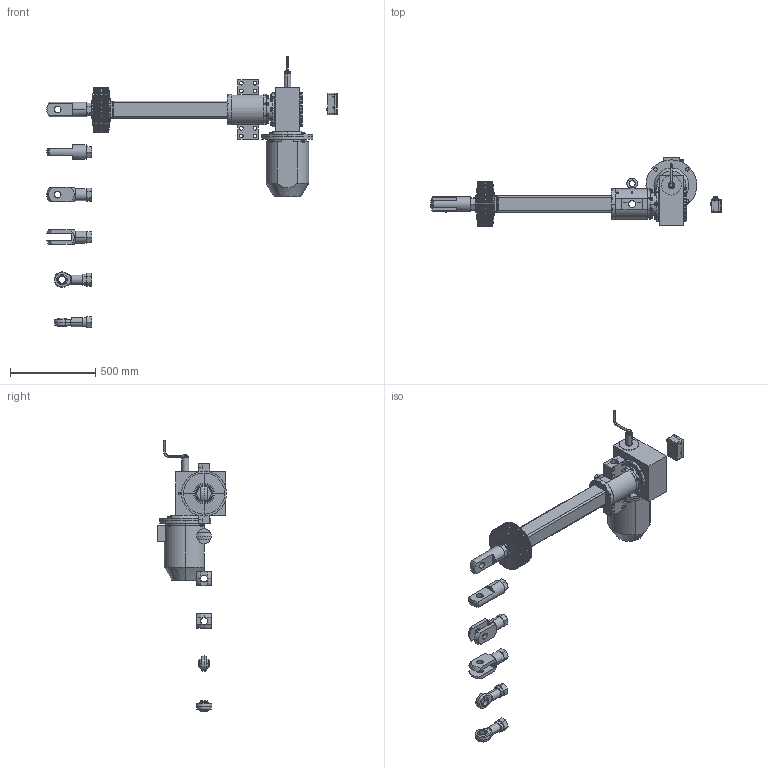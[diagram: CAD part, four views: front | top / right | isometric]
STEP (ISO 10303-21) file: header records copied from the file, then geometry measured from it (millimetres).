
FILE_DESCRIPTION (( 'STEP AP203' ), '1' );
FILE_NAME ('Ì4 6 500.STEP', '2016-12-22T08:28:47', ( '' ), ( '' ), 'SwSTEP 2.0', 'SolidWorks 2012', '' );
FILE_SCHEMA (( 'CONFIG_CONTROL_DESIGN' ));
Products named in the file (9): ﾌ4 6 500; Ãîôð Ñ4_•®¤600; 迕 6; 苂 6; 迍 6; ﾁﾑﾏ; Ñ4 6 ïåðåä áàçà; ﾒ矜 6_500; ﾌ4 6 矜鈞
Assembly tree (11 placements, depth 2):
  ﾌ4 6 500
    ﾌ4 6 矜鈞
    ﾒ矜 6_500
    Ñ4 6 ïåðåä áàçà
    ﾁﾑﾏ
    迍 6  x2
    苂 6  x2
    迕 6  x2
    Ãîôð Ñ4_•®¤600
Bounding box: 1708 x 406 x 1596 mm (x, y, z)
Volume: 1006364.8 mm3; surface area: 5996673 mm2
Topology: 1 solids, 211 shells, 1899 faces, 5158 edges, 3490 vertices
Faces by surface type: plane 756, cylinder 603, cone 404, sphere 64, torus 60, bspline 12
Entity records: 60711 total; most frequent: CARTESIAN_POINT 14523, DIRECTION 10102, ORIENTED_EDGE 8162, EDGE_CURVE 4800, AXIS2_PLACEMENT_3D 4049, VERTEX_POINT 3272, CIRCLE 2253, EDGE_LOOP 2120
